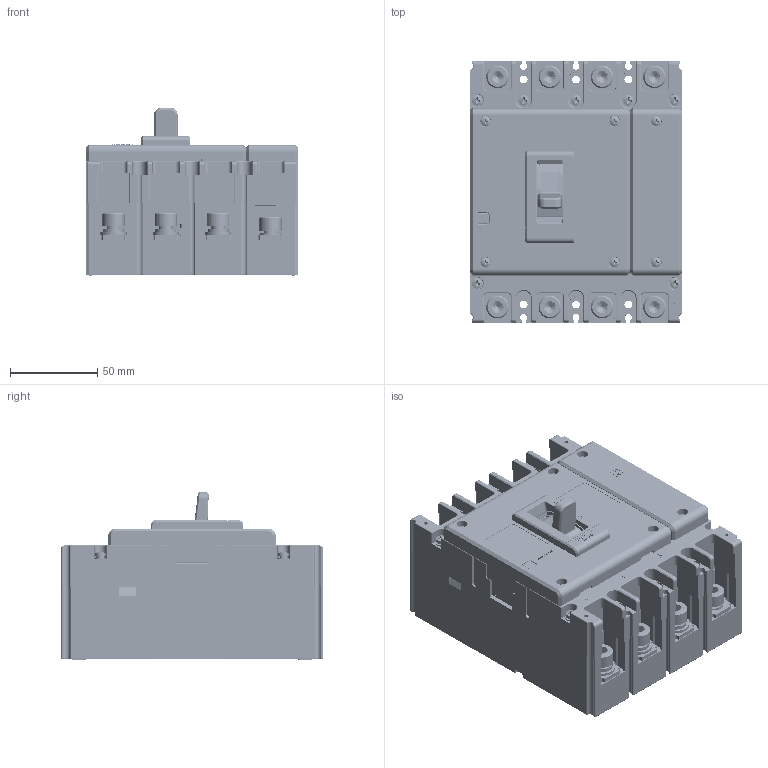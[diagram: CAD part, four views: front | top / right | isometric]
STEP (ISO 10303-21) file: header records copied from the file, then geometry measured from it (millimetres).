
FILE_DESCRIPTION((''),'2;1');
FILE_NAME('2253024700_ASM_1_ASM','2025-04-28T',('Administrator'),(''),'PRO/ENGINEER BY PARAMETRIC TECHNOLOGY CORPORATION, 2015440','PRO/ENGINEER BY PARAMETRIC TECHNOLOGY CORPORATION, 2015440','');
FILE_SCHEMA(('CONFIG_CONTROL_DESIGN'));
Products named in the file (59): JZ8024044800_1; GB_T809_M3_5X12_1; 5024044800_ASM_1_ASM; 70801007_GB_T6170_M8_1; 8551037900_1; 5551081000_ASM_1_ASM; GB_T823-M3_5X10_1; 7090300201_GB_T93_3_1; 8950019500_1; 5850004500_ASM_1_ASM; 8585071200_1; 5420213500_AF0_ASM_1_ASM; 5551103400_AF0_ASM_1_ASM; 5551103500_AF0_ASM_1_ASM; 5420213500_AF1_ASM_1_ASM; 5551103400_AF1_ASM_1_ASM; 5551103500_AF1_ASM_1_ASM; 5420213500_AF2_ASM_1_ASM; 5551103400_AF2_ASM_1_ASM; 5551103500_AF2_ASM_1_ASM; 8585065200_1; 5551108300_ASM_1_ASM; 5551108400_ASM_1_ASM; 5551106000_ASM_1_ASM; 5551107900_ASM_1_ASM; 5551108000_ASM_1_ASM; GB_T818-M3X8_1; 8950022000_1; 5850005300_ASM_1_ASM; MANIFOLD_SOLID_BREP_120637; MANIFOLD_SOLID_BREP_120788; 8505026800_1_ASM; 5511007100_ASM_1_ASM; GB_T823-M3_5X25_1; 5850007100_ASM_1_ASM; 5295008500_ASM_1_ASM; 8742111600_1; 8742111500_1; 8253076900_1; 5253029000_ASM_1_ASM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
Assembly tree (122 placements, depth 9):
  2253024700_ASM_1_ASM
    5295008500_ASM_1_ASM
      5024044800_ASM_1_ASM
        JZ8024044800_1
        GB_T809_M3_5X12_1  x7
      70801007_GB_T6170_M8_1  x8
      5551081000_ASM_1_ASM  x4
        8551037900_1
      5850004500_ASM_1_ASM  x8
        GB_T823-M3_5X10_1
        7090300201_GB_T93_3_1
        8950019500_1
      5551108000_ASM_1_ASM
        5551107900_ASM_1_ASM
          5551106000_ASM_1_ASM
            5551103500_AF0_ASM_1_ASM
              5551103400_AF0_ASM_1_ASM
                5420213500_AF0_ASM_1_ASM
                  8585071200_1
            5551103500_AF1_ASM_1_ASM
              5551103400_AF1_ASM_1_ASM
                5420213500_AF1_ASM_1_ASM
                  8585071200_1
            5551103500_AF2_ASM_1_ASM
              5551103400_AF2_ASM_1_ASM
                5420213500_AF2_ASM_1_ASM
                  8585071200_1
            5551108400_ASM_1_ASM
              5551108300_ASM_1_ASM
                8585065200_1
      5850005300_ASM_1_ASM  x3
        GB_T818-M3X8_1
        7090300201_GB_T93_3_1
        8950022000_1
      5511007100_ASM_1_ASM
        8585065200_1  x2
        8505026800_1_ASM
          MANIFOLD_SOLID_BREP_120637
          MANIFOLD_SOLID_BREP_120788
      5850007100_ASM_1_ASM  x4
        GB_T823-M3_5X25_1
        7090300201_GB_T93_3_1
        8950019500_1
    8742111600_1  x4
    8742111500_1  x4
    5253029000_ASM_1_ASM
      8253076900_1
    5850008100_ASM_1_ASM  x8
      7010600401L_GB_T70_1_M8X16_1
      7090370701K_GB_T93_8_1
      GB_T97_4_8_1
    8750038500_1
    8750034300_1  x4
    5315052200_ASM_1_ASM
      5315051100_ASM_1_ASM
        8315096200_1
        8282073000_AF0_1
        8253076800_1
      8332001200_1
      8332001300_1
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Bounding box: 122 x 150 x 96.51 mm (x, y, z)
Volume: 482993 mm3; surface area: 416024.1 mm2
Topology: 145 solids, 206 shells, 10116 faces, 26871 edges, 17031 vertices
Faces by surface type: plane 5515, cylinder 3109, cone 382, torus 344, sphere 322, extrusion 259, bspline 185
Entity records: 260951 total; most frequent: CARTESIAN_POINT 61496, ORIENTED_EDGE 41998, DIRECTION 40816, EDGE_CURVE 21021, VECTOR 14320, LINE 14061, VERTEX_POINT 13491, AXIS2_PLACEMENT_3D 13248
